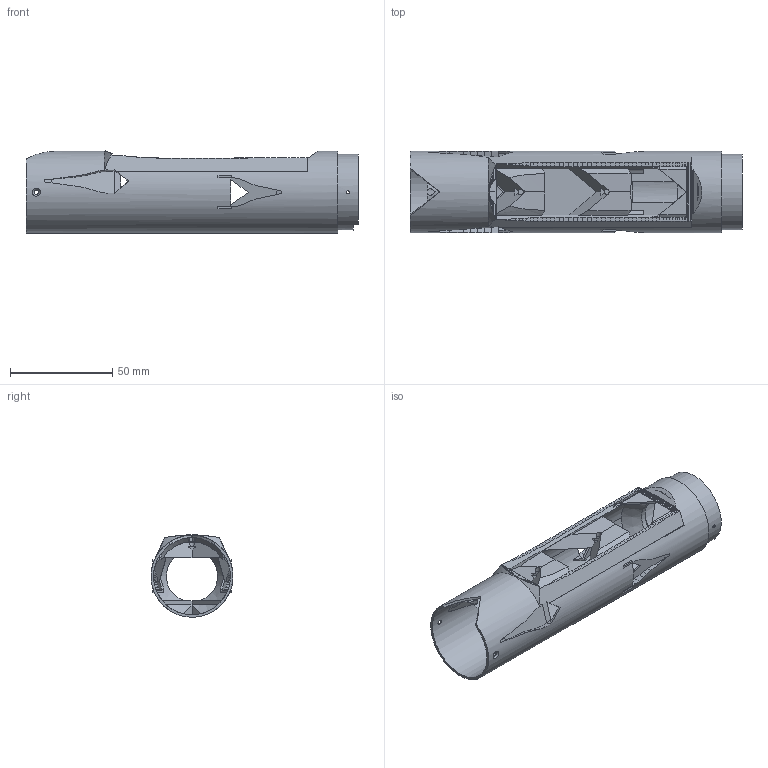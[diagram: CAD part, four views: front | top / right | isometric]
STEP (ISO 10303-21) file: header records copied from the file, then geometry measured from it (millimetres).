
FILE_DESCRIPTION(('SkyG Speed 90 - revision C6-9 - 2026-10-07','F2-fuselage-main'),'2;1');
FILE_NAME('F2-fuselage-main_C6-9','2026-10-07T14:03:25',('Author'),( 'Open CASCADE'),'Open CASCADE STEP processor 7.9','Open CASCADE 7.9' ,'Unknown');
FILE_SCHEMA(('AUTOMOTIVE_DESIGN { 1 0 10303 214 1 1 1 1 }'));
Length unit declared in the file: millimetre
Products named in the file (7): F2-fuselage-main C6-9; Open CASCADE STEP translator 7.9 12.1; Open CASCADE STEP translator 7.9 12.1.1; Open CASCADE STEP translator 7.9 12.1.2; Open CASCADE STEP translator 7.9 12.1.3; Open CASCADE STEP translator 7.9 12.1.4; Open CASCADE STEP translator 7.9 12.1.5
Assembly tree (6 placements, depth 3):
  F2-fuselage-main C6-9
    Open CASCADE STEP translator 7.9 12.1
      Open CASCADE STEP translator 7.9 12.1.1
      Open CASCADE STEP translator 7.9 12.1.2
      Open CASCADE STEP translator 7.9 12.1.3
      Open CASCADE STEP translator 7.9 12.1.4
      Open CASCADE STEP translator 7.9 12.1.5
Bounding box: 162 x 40 x 40.27 mm (x, y, z)
Volume: 38202.9 mm3; surface area: 45096.8 mm2
Topology: 1 solids, 5 shells, 573 faces, 1765 edges, 1179 vertices
Faces by surface type: plane 425, bspline 94, cylinder 47, cone 7
Full cylindrical faces by diameter (mm): 1.6 x2, 2.2 x2, 25 x1, 33.8 x1, 37 x1, 37.6 x2, 40 x1
Entity records: 65337 total; most frequent: CARTESIAN_POINT 34844, DIRECTION 4171, ORIENTED_EDGE 3507, PCURVE 3507, DEFINITIONAL_REPRESENTATION 3507, LINE 2515, VECTOR 2515, B_SPLINE_CURVE_WITH_KNOTS 2270
